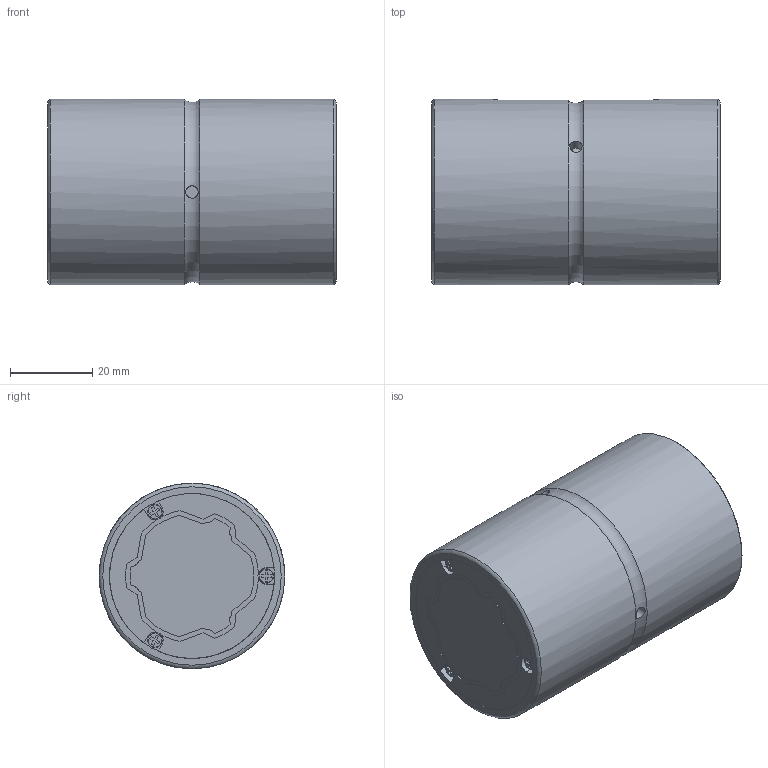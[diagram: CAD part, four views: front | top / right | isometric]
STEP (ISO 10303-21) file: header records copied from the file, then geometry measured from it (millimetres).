
FILE_DESCRIPTION(/* description */ ('STEP AP203'),/* implementation_level */ '2;1');
FILE_NAME(/* name */ 'SLS30170(00)',/* time_stamp */ '2024-05-23T11:46:39+02:00',/* author */ ('License CC BY-ND 4.0'),/* organization */ ('CADENAS'),/* preprocessor_version */ 'ST-DEVELOPER v19.3',/* originating_system */ 'PARTsolutions',/* authorisation */ ' ');
FILE_SCHEMA (('CONFIG_CONTROL_DESIGN'));
Length unit declared in the file: millimetre
Products named in the file (3): SLS30170(00); 30(X70); 30X cylinder
Assembly tree (2 placements, depth 2):
  SLS30170(00)
    30(X70)
    30X cylinder
Bounding box: 70 x 45 x 45 mm (x, y, z)
Volume: 109620.7 mm3; surface area: 27346.1 mm2
Topology: 2 solids, 2 shells, 288 faces, 796 edges, 529 vertices
Faces by surface type: plane 180, cylinder 99, torus 9
Full cylindrical faces by diameter (mm): 3 x3, 3.5 x6, 40 x2, 45 x2
Entity records: 9156 total; most frequent: CARTESIAN_POINT 1637, DIRECTION 1566, ORIENTED_EDGE 1536, EDGE_CURVE 768, LINE 538, VECTOR 538, VERTEX_POINT 522, AXIS2_PLACEMENT_3D 514
